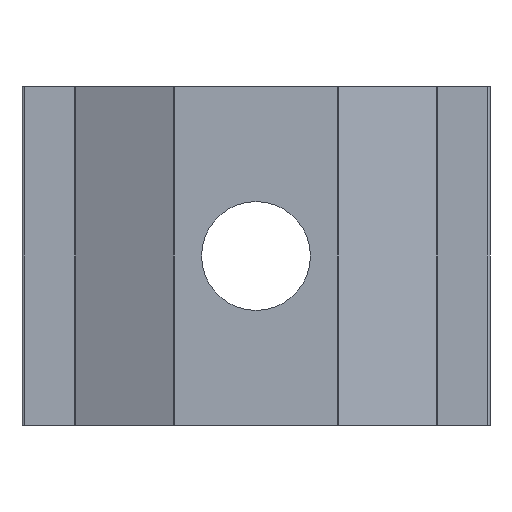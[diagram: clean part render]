
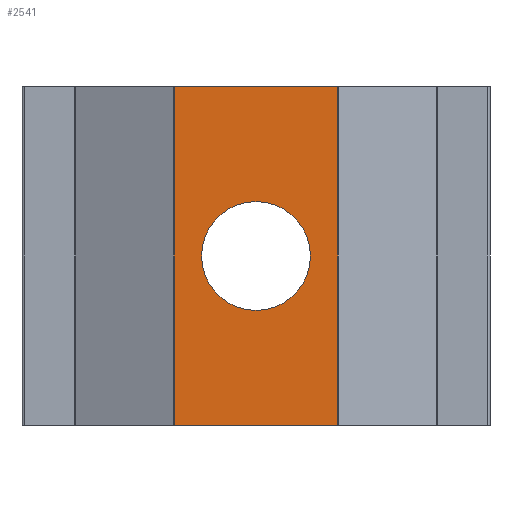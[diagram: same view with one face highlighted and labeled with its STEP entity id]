
A CAD part, front view. The second image highlights one B-rep face of the part: STEP entity #2541.
In plain terms, the highlighted planar face has unit normal (0, -1, 0).
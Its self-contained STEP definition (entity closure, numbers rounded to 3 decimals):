
#146 = FACE_OUTER_BOUND ( 'NONE', #1898, .T. ) ;
#244 = CARTESIAN_POINT ( 'NONE',  ( 64.572, 0., 134. ) ) ;
#315 = ORIENTED_EDGE ( 'NONE', *, *, #2287, .F. ) ;
#327 = EDGE_CURVE ( 'NONE', #1296, #2897, #2918, .T. ) ;
#374 = ORIENTED_EDGE ( 'NONE', *, *, #1302, .T. ) ;
#443 = VERTEX_POINT ( 'NONE', #574 ) ;
#456 = DIRECTION ( 'NONE',  ( 1., 0., 0. ) ) ;
#477 = LINE ( 'NONE', #1664, #3116 ) ;
#574 = CARTESIAN_POINT ( 'NONE',  ( -64.572, 0., 134. ) ) ;
#681 = CARTESIAN_POINT ( 'NONE',  ( 0., 0., 0. ) ) ;
#715 = CARTESIAN_POINT ( 'NONE',  ( -64.572, 0., 134. ) ) ;
#727 = VECTOR ( 'NONE', #752, 1000. ) ;
#752 = DIRECTION ( 'NONE',  ( 0., 0., -1. ) ) ;
#856 = DIRECTION ( 'NONE',  ( 0., 1., 0. ) ) ;
#869 = ORIENTED_EDGE ( 'NONE', *, *, #327, .T. ) ;
#948 = CARTESIAN_POINT ( 'NONE',  ( 0., 0., 0. ) ) ;
#974 = DIRECTION ( 'NONE',  ( 0., 0., 1. ) ) ;
#975 = EDGE_LOOP ( 'NONE', ( #869, #2626 ) ) ;
#1010 = DIRECTION ( 'NONE',  ( 0., 1., 0. ) ) ;
#1037 = CARTESIAN_POINT ( 'NONE',  ( -64.572, 0., -134. ) ) ;
#1094 = CIRCLE ( 'NONE', #1482, 43. ) ;
#1139 = VECTOR ( 'NONE', #2627, 1000. ) ;
#1189 = VECTOR ( 'NONE', #2853, 1000. ) ;
#1203 = ORIENTED_EDGE ( 'NONE', *, *, #1561, .T. ) ;
#1296 = VERTEX_POINT ( 'NONE', #2845 ) ;
#1302 = EDGE_CURVE ( 'NONE', #1639, #3042, #477, .T. ) ;
#1323 = FACE_BOUND ( 'NONE', #975, .T. ) ;
#1378 = AXIS2_PLACEMENT_3D ( 'NONE', #681, #1010, #1906 ) ;
#1395 = CARTESIAN_POINT ( 'NONE',  ( 65., 0., 134. ) ) ;
#1472 = CARTESIAN_POINT ( 'NONE',  ( 64.572, 0., -134. ) ) ;
#1482 = AXIS2_PLACEMENT_3D ( 'NONE', #948, #2699, #974 ) ;
#1530 = EDGE_CURVE ( 'NONE', #443, #2137, #1911, .T. ) ;
#1561 = EDGE_CURVE ( 'NONE', #443, #1639, #2405, .T. ) ;
#1571 = CARTESIAN_POINT ( 'NONE',  ( 0., 0., -43. ) ) ;
#1588 = AXIS2_PLACEMENT_3D ( 'NONE', #2993, #856, #1817 ) ;
#1639 = VERTEX_POINT ( 'NONE', #1037 ) ;
#1659 = ORIENTED_EDGE ( 'NONE', *, *, #1530, .F. ) ;
#1664 = CARTESIAN_POINT ( 'NONE',  ( 65., 0., -134. ) ) ;
#1817 = DIRECTION ( 'NONE',  ( 0., 0., 1. ) ) ;
#1898 = EDGE_LOOP ( 'NONE', ( #374, #315, #1659, #1203 ) ) ;
#1906 = DIRECTION ( 'NONE',  ( 0., 0., 1. ) ) ;
#1911 = LINE ( 'NONE', #1395, #1189 ) ;
#2071 = PLANE ( 'NONE',  #1588 ) ;
#2137 = VERTEX_POINT ( 'NONE', #2589 ) ;
#2287 = EDGE_CURVE ( 'NONE', #2137, #3042, #2645, .T. ) ;
#2405 = LINE ( 'NONE', #715, #1139 ) ;
#2541 = ADVANCED_FACE ( 'NONE', ( #1323, #146 ), #2071, .F. ) ;
#2589 = CARTESIAN_POINT ( 'NONE',  ( 64.572, 0., 134. ) ) ;
#2626 = ORIENTED_EDGE ( 'NONE', *, *, #2646, .T. ) ;
#2627 = DIRECTION ( 'NONE',  ( 0., 0., -1. ) ) ;
#2645 = LINE ( 'NONE', #244, #727 ) ;
#2646 = EDGE_CURVE ( 'NONE', #2897, #1296, #1094, .T. ) ;
#2699 = DIRECTION ( 'NONE',  ( 0., 1., 0. ) ) ;
#2845 = CARTESIAN_POINT ( 'NONE',  ( 0., 0., 43. ) ) ;
#2853 = DIRECTION ( 'NONE',  ( 1., 0., 0. ) ) ;
#2897 = VERTEX_POINT ( 'NONE', #1571 ) ;
#2918 = CIRCLE ( 'NONE', #1378, 43. ) ;
#2993 = CARTESIAN_POINT ( 'NONE',  ( 65., 0., 134. ) ) ;
#3042 = VERTEX_POINT ( 'NONE', #1472 ) ;
#3116 = VECTOR ( 'NONE', #456, 1000. ) ;
